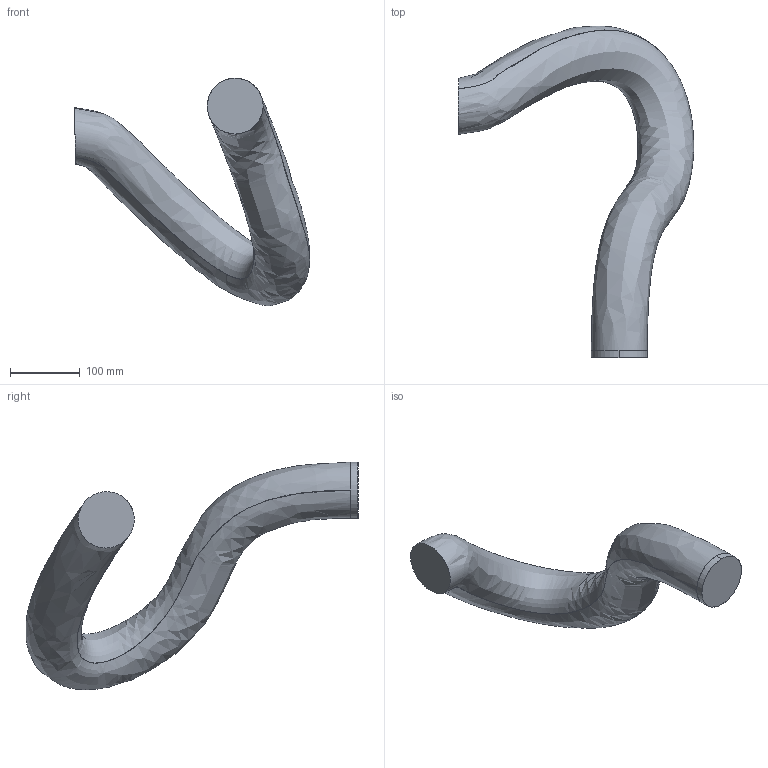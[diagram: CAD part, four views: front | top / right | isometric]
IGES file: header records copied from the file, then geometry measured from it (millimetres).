
Start section: SolidWorks IGES file using analytic representation for surfaces
Global section: file name: C:\DATA\SAP_DOC\LW\IRB 6730\IRB6730-LID-SW_190kg-310_OC_01_SW_J\Export\IRB6730-LID-SW_190kg-310_OC_01_IGES_J\IRB6730-LID_190kg-310_OC_00_LINK05_CABLE.igs; native system: SolidWorks 2024; preprocessor: SolidWorks 2024; author: SEJOVAS3; date: 260526.111735; units: millimetre
Bounding box: 337.41 x 475.69 x 326.15 mm (x, y, z)
Surface area: 232769.4 mm2 (no closed solid volume)
Topology: 0 solids, 0 shells, 6 faces, 182 edges, 182 vertices
Faces by surface type: bspline 4, revolution 2
